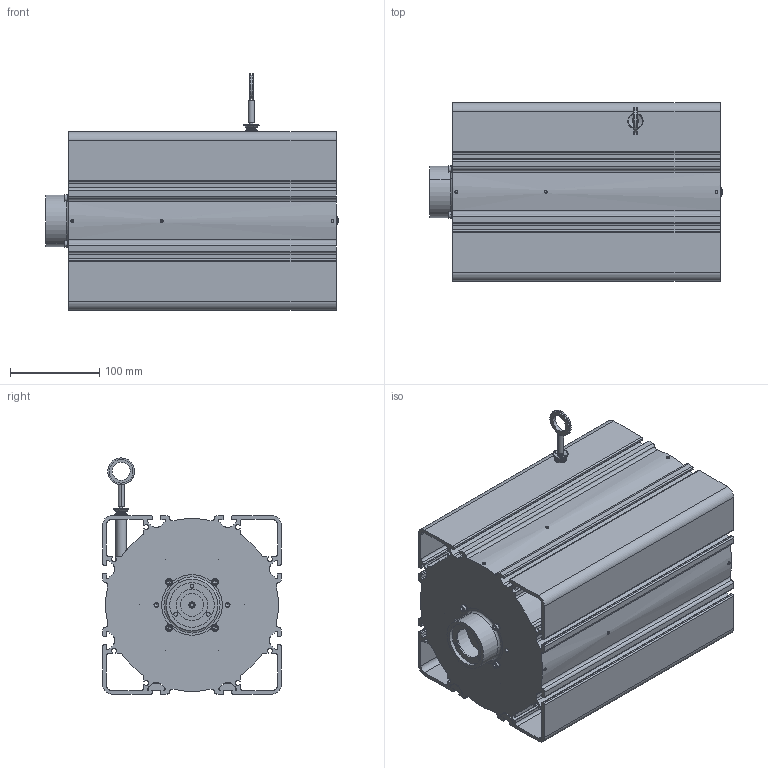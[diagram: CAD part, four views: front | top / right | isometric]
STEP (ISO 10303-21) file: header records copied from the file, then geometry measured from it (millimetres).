
FILE_DESCRIPTION((''),'2;1');
FILE_NAME('','2007-05-29T',(''),(''),'PRO/ENGINEER BY PARAMETRIC TECHNOLOGY CORPORATION, 2003250','PRO/ENGINEER BY PARAMETRIC TECHNOLOGY CORPORATION, 2003250','');
FILE_SCHEMA(('CONFIG_CONTROL_DESIGN'));
Length unit declared in the file: millimetre
Bounding box: 328.17 x 200 x 264.95 mm (x, y, z)
Volume: 2045805.7 mm3; surface area: 852356 mm2
Topology: 1 solids, 6 shells, 820 faces, 2195 edges, 1419 vertices
Faces by surface type: cylinder 382, plane 298, cone 96, torus 42, sphere 2
Entity records: 26883 total; most frequent: CARTESIAN_POINT 5828, DIRECTION 4579, ORIENTED_EDGE 4334, EDGE_CURVE 2167, AXIS2_PLACEMENT_3D 1758, VERTEX_POINT 1419, VECTOR 1063, LINE 1063
